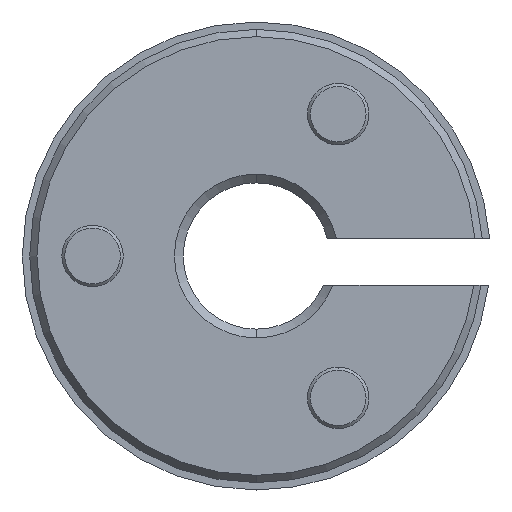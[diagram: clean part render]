
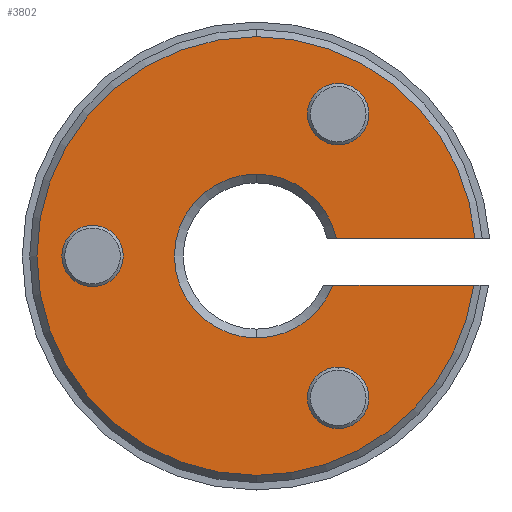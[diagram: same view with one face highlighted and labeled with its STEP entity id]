
A CAD part, left-side view. The second image highlights one B-rep face of the part: STEP entity #3802.
In plain terms, the highlighted planar face has unit normal (-1, 0, 0).
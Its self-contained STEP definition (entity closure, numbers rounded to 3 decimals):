
#6 = ORIENTED_EDGE ( 'NONE', *, *, #3598, .F. ) ;
#39 = EDGE_LOOP ( 'NONE', ( #1418, #840, #3160, #2126, #579, #6, #2085, #3894 ) ) ;
#46 = EDGE_CURVE ( 'NONE', #1449, #764, #3423, .T. ) ;
#113 = CIRCLE ( 'NONE', #2381, 1.05 ) ;
#190 = CIRCLE ( 'NONE', #1272, 2.8 ) ;
#285 = CARTESIAN_POINT ( 'NONE',  ( 0., 5.6, 0. ) ) ;
#319 = DIRECTION ( 'NONE',  ( 0., -0.934, -0.357 ) ) ;
#389 = CARTESIAN_POINT ( 'NONE',  ( 0., -2.275, -5.759 ) ) ;
#468 = DIRECTION ( 'NONE',  ( -1., 0., 0. ) ) ;
#493 = DIRECTION ( 'NONE',  ( 1., 0., 0. ) ) ;
#514 = AXIS2_PLACEMENT_3D ( 'NONE', #762, #468, #1665 ) ;
#536 = EDGE_CURVE ( 'NONE', #1499, #1580, #113, .T. ) ;
#579 = ORIENTED_EDGE ( 'NONE', *, *, #3343, .F. ) ;
#607 = CARTESIAN_POINT ( 'NONE',  ( 0., -1.75, 4.85 ) ) ;
#619 = DIRECTION ( 'NONE',  ( 1., 0., 0. ) ) ;
#653 = VERTEX_POINT ( 'NONE', #2712 ) ;
#678 = VECTOR ( 'NONE', #2449, 1000. ) ;
#699 = DIRECTION ( 'NONE',  ( 0., -0.991, -0.133 ) ) ;
#747 = FACE_OUTER_BOUND ( 'NONE', #39, .T. ) ;
#762 = CARTESIAN_POINT ( 'NONE',  ( 0., -2.8, 4.85 ) ) ;
#764 = VERTEX_POINT ( 'NONE', #3137 ) ;
#776 = DIRECTION ( 'NONE',  ( -1., 0., 0. ) ) ;
#780 = EDGE_LOOP ( 'NONE', ( #3587, #789 ) ) ;
#789 = ORIENTED_EDGE ( 'NONE', *, *, #3541, .F. ) ;
#797 = AXIS2_PLACEMENT_3D ( 'NONE', #1308, #776, #2530 ) ;
#800 = DIRECTION ( 'NONE',  ( -1., 0., 0. ) ) ;
#840 = ORIENTED_EDGE ( 'NONE', *, *, #3626, .T. ) ;
#850 = AXIS2_PLACEMENT_3D ( 'NONE', #1824, #3014, #319 ) ;
#894 = AXIS2_PLACEMENT_3D ( 'NONE', #3516, #800, #2006 ) ;
#924 = EDGE_CURVE ( 'NONE', #3713, #1356, #1967, .T. ) ;
#943 = CARTESIAN_POINT ( 'NONE',  ( 0., -2.8, -4.85 ) ) ;
#948 = LINE ( 'NONE', #3649, #678 ) ;
#951 = EDGE_CURVE ( 'NONE', #1356, #3713, #3149, .T. ) ;
#963 = CARTESIAN_POINT ( 'NONE',  ( 0., 0., 0. ) ) ;
#1012 = DIRECTION ( 'NONE',  ( 0., -0.934, -0.357 ) ) ;
#1017 = AXIS2_PLACEMENT_3D ( 'NONE', #1319, #2482, #3441 ) ;
#1143 = CARTESIAN_POINT ( 'NONE',  ( 0., 5.075, -0.909 ) ) ;
#1178 = DIRECTION ( 'NONE',  ( -1., 0., 0. ) ) ;
#1182 = CIRCLE ( 'NONE', #1935, 7.5 ) ;
#1272 = AXIS2_PLACEMENT_3D ( 'NONE', #3724, #1909, #1588 ) ;
#1308 = CARTESIAN_POINT ( 'NONE',  ( 0., 5.6, 0. ) ) ;
#1319 = CARTESIAN_POINT ( 'NONE',  ( 0., 0., 0. ) ) ;
#1356 = VERTEX_POINT ( 'NONE', #2000 ) ;
#1403 = VECTOR ( 'NONE', #1766, 1000. ) ;
#1418 = ORIENTED_EDGE ( 'NONE', *, *, #1603, .T. ) ;
#1449 = VERTEX_POINT ( 'NONE', #2705 ) ;
#1460 = ORIENTED_EDGE ( 'NONE', *, *, #536, .F. ) ;
#1494 = VERTEX_POINT ( 'NONE', #3082 ) ;
#1499 = VERTEX_POINT ( 'NONE', #2087 ) ;
#1549 = DIRECTION ( 'NONE',  ( 0., 0.5, 0.866 ) ) ;
#1580 = VERTEX_POINT ( 'NONE', #1143 ) ;
#1588 = DIRECTION ( 'NONE',  ( 0., -0.934, -0.357 ) ) ;
#1602 = CARTESIAN_POINT ( 'NONE',  ( 0., -7.476, 0.6 ) ) ;
#1603 = EDGE_CURVE ( 'NONE', #653, #2836, #3880, .T. ) ;
#1665 = DIRECTION ( 'NONE',  ( 0., -1., 0. ) ) ;
#1683 = EDGE_CURVE ( 'NONE', #653, #3248, #1182, .T. ) ;
#1693 = EDGE_CURVE ( 'NONE', #2970, #3833, #3249, .T. ) ;
#1727 = CARTESIAN_POINT ( 'NONE',  ( 0., 0., -2.8 ) ) ;
#1766 = DIRECTION ( 'NONE',  ( 0., 1., 0. ) ) ;
#1792 = FACE_BOUND ( 'NONE', #780, .T. ) ;
#1823 = ORIENTED_EDGE ( 'NONE', *, *, #924, .F. ) ;
#1824 = CARTESIAN_POINT ( 'NONE',  ( 0., 0., 0. ) ) ;
#1826 = DIRECTION ( 'NONE',  ( 0., -0.991, -0.133 ) ) ;
#1835 = CARTESIAN_POINT ( 'NONE',  ( 0., 0., -7.5 ) ) ;
#1909 = DIRECTION ( 'NONE',  ( 1., 0., 0. ) ) ;
#1934 = CARTESIAN_POINT ( 'NONE',  ( 0., -3.325, -3.94 ) ) ;
#1935 = AXIS2_PLACEMENT_3D ( 'NONE', #963, #3644, #699 ) ;
#1958 = DIRECTION ( 'NONE',  ( 1., 0., 0. ) ) ;
#1963 = CIRCLE ( 'NONE', #2403, 2.8 ) ;
#1967 = CIRCLE ( 'NONE', #894, 1.05 ) ;
#2000 = CARTESIAN_POINT ( 'NONE',  ( 0., -3.85, 4.85 ) ) ;
#2006 = DIRECTION ( 'NONE',  ( 0., 1., 0. ) ) ;
#2069 = CARTESIAN_POINT ( 'NONE',  ( 0., -7.433, -1. ) ) ;
#2085 = ORIENTED_EDGE ( 'NONE', *, *, #2173, .F. ) ;
#2087 = CARTESIAN_POINT ( 'NONE',  ( 0., 6.125, 0.909 ) ) ;
#2126 = ORIENTED_EDGE ( 'NONE', *, *, #46, .T. ) ;
#2147 = DIRECTION ( 'NONE',  ( 0., -0.5, 0.866 ) ) ;
#2173 = EDGE_CURVE ( 'NONE', #3248, #1494, #2217, .T. ) ;
#2185 = CIRCLE ( 'NONE', #797, 1.05 ) ;
#2217 = CIRCLE ( 'NONE', #2468, 7.5 ) ;
#2260 = ORIENTED_EDGE ( 'NONE', *, *, #951, .F. ) ;
#2381 = AXIS2_PLACEMENT_3D ( 'NONE', #285, #1178, #1549 ) ;
#2403 = AXIS2_PLACEMENT_3D ( 'NONE', #3189, #493, #1012 ) ;
#2449 = DIRECTION ( 'NONE',  ( 0., 1., 0. ) ) ;
#2461 = VERTEX_POINT ( 'NONE', #1727 ) ;
#2468 = AXIS2_PLACEMENT_3D ( 'NONE', #3312, #619, #1826 ) ;
#2482 = DIRECTION ( 'NONE',  ( 1., 0., 0. ) ) ;
#2500 = AXIS2_PLACEMENT_3D ( 'NONE', #3406, #3130, #3428 ) ;
#2530 = DIRECTION ( 'NONE',  ( 0., -0.5, -0.866 ) ) ;
#2705 = CARTESIAN_POINT ( 'NONE',  ( 0., 0., 2.8 ) ) ;
#2712 = CARTESIAN_POINT ( 'NONE',  ( 0., -7.433, -1. ) ) ;
#2836 = VERTEX_POINT ( 'NONE', #3195 ) ;
#2970 = VERTEX_POINT ( 'NONE', #1934 ) ;
#3014 = DIRECTION ( 'NONE',  ( 1., 0., 0. ) ) ;
#3082 = CARTESIAN_POINT ( 'NONE',  ( 0., 0., 7.5 ) ) ;
#3103 = PLANE ( 'NONE',  #1017 ) ;
#3130 = DIRECTION ( 'NONE',  ( -1., 0., 0. ) ) ;
#3137 = CARTESIAN_POINT ( 'NONE',  ( 0., -2.735, 0.6 ) ) ;
#3148 = CARTESIAN_POINT ( 'NONE',  ( 0., 0., 0. ) ) ;
#3149 = CIRCLE ( 'NONE', #514, 1.05 ) ;
#3160 = ORIENTED_EDGE ( 'NONE', *, *, #3849, .T. ) ;
#3183 = CIRCLE ( 'NONE', #2500, 1.05 ) ;
#3189 = CARTESIAN_POINT ( 'NONE',  ( 0., 0., 0. ) ) ;
#3195 = CARTESIAN_POINT ( 'NONE',  ( 0., -2.615, -1. ) ) ;
#3248 = VERTEX_POINT ( 'NONE', #1835 ) ;
#3249 = CIRCLE ( 'NONE', #3443, 1.05 ) ;
#3283 = FACE_BOUND ( 'NONE', #3883, .T. ) ;
#3312 = CARTESIAN_POINT ( 'NONE',  ( 0., 0., 0. ) ) ;
#3332 = ORIENTED_EDGE ( 'NONE', *, *, #3545, .F. ) ;
#3343 = EDGE_CURVE ( 'NONE', #3878, #764, #948, .T. ) ;
#3357 = DIRECTION ( 'NONE',  ( -1., 0., 0. ) ) ;
#3406 = CARTESIAN_POINT ( 'NONE',  ( 0., -2.8, -4.85 ) ) ;
#3423 = CIRCLE ( 'NONE', #850, 2.8 ) ;
#3428 = DIRECTION ( 'NONE',  ( 0., 0.5, -0.866 ) ) ;
#3441 = DIRECTION ( 'NONE',  ( 0., 1., 0. ) ) ;
#3443 = AXIS2_PLACEMENT_3D ( 'NONE', #943, #3357, #2147 ) ;
#3464 = AXIS2_PLACEMENT_3D ( 'NONE', #3148, #1958, #3797 ) ;
#3468 = CIRCLE ( 'NONE', #3464, 7.5 ) ;
#3516 = CARTESIAN_POINT ( 'NONE',  ( 0., -2.8, 4.85 ) ) ;
#3541 = EDGE_CURVE ( 'NONE', #3833, #2970, #3183, .T. ) ;
#3545 = EDGE_CURVE ( 'NONE', #1580, #1499, #2185, .T. ) ;
#3587 = ORIENTED_EDGE ( 'NONE', *, *, #1693, .F. ) ;
#3598 = EDGE_CURVE ( 'NONE', #1494, #3878, #3468, .T. ) ;
#3606 = FACE_BOUND ( 'NONE', #3696, .T. ) ;
#3626 = EDGE_CURVE ( 'NONE', #2836, #2461, #1963, .T. ) ;
#3644 = DIRECTION ( 'NONE',  ( 1., 0., 0. ) ) ;
#3649 = CARTESIAN_POINT ( 'NONE',  ( 0., -7.476, 0.6 ) ) ;
#3696 = EDGE_LOOP ( 'NONE', ( #1823, #2260 ) ) ;
#3713 = VERTEX_POINT ( 'NONE', #607 ) ;
#3724 = CARTESIAN_POINT ( 'NONE',  ( 0., 0., 0. ) ) ;
#3797 = DIRECTION ( 'NONE',  ( 0., -0.991, -0.133 ) ) ;
#3802 = ADVANCED_FACE ( 'NONE', ( #3283, #1792, #3606, #747 ), #3103, .F. ) ;
#3833 = VERTEX_POINT ( 'NONE', #389 ) ;
#3849 = EDGE_CURVE ( 'NONE', #2461, #1449, #190, .T. ) ;
#3878 = VERTEX_POINT ( 'NONE', #1602 ) ;
#3880 = LINE ( 'NONE', #2069, #1403 ) ;
#3883 = EDGE_LOOP ( 'NONE', ( #3332, #1460 ) ) ;
#3894 = ORIENTED_EDGE ( 'NONE', *, *, #1683, .F. ) ;
